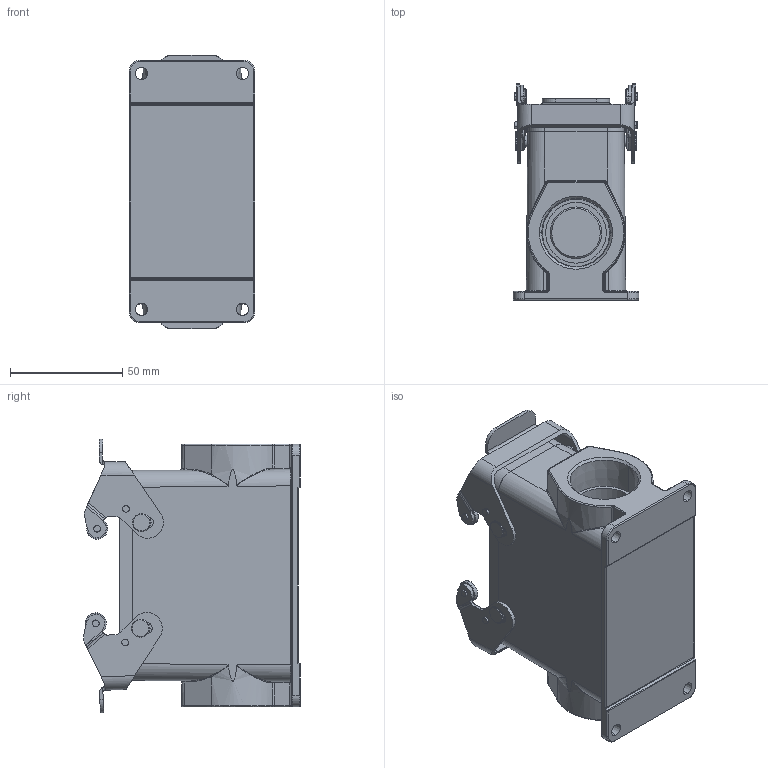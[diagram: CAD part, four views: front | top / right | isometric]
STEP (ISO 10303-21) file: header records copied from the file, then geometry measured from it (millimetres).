
FILE_DESCRIPTION (( 'STEP AP203' ), '1' );
FILE_NAME ('H16B-SGRH-M32.STEP', '2020-11-21T05:25:47', ( '' ), ( '' ), 'SwSTEP 2.0', 'SolidWorks 2016', '' );
FILE_SCHEMA (( 'CONFIG_CONTROL_DESIGN' ));
Length unit declared in the file: millimetre
Products named in the file (9): maoding; 16bh-surface-m-highconstruction; 24bcaixinshuangkou; H16B-SGRH-M32; kahuan; tanhuang; maoding1; h16bmifengquan
Assembly tree (15 placements, depth 3):
  H16B-SGRH-M32
    h16bmifengquan
    16bh-surface-m-highconstruction
    24bcaixinshuangkou  x2
      24bcaixinshuangkou
      kahuan
      tanhuang
      maoding
      maoding1
Bounding box: 56 x 96.64 x 121.89 mm (x, y, z)
Volume: 153798.9 mm3; surface area: 74537.7 mm2
Topology: 24 solids, 24 shells, 880 faces, 2041 edges, 1240 vertices
Faces by surface type: cylinder 326, bspline 228, plane 224, cone 102
Entity records: 22303 total; most frequent: CARTESIAN_POINT 10292, ORIENTED_EDGE 2418, DIRECTION 2078, EDGE_CURVE 1209, AXIS2_PLACEMENT_3D 761, VERTEX_POINT 742, VECTOR 556, LINE 556
